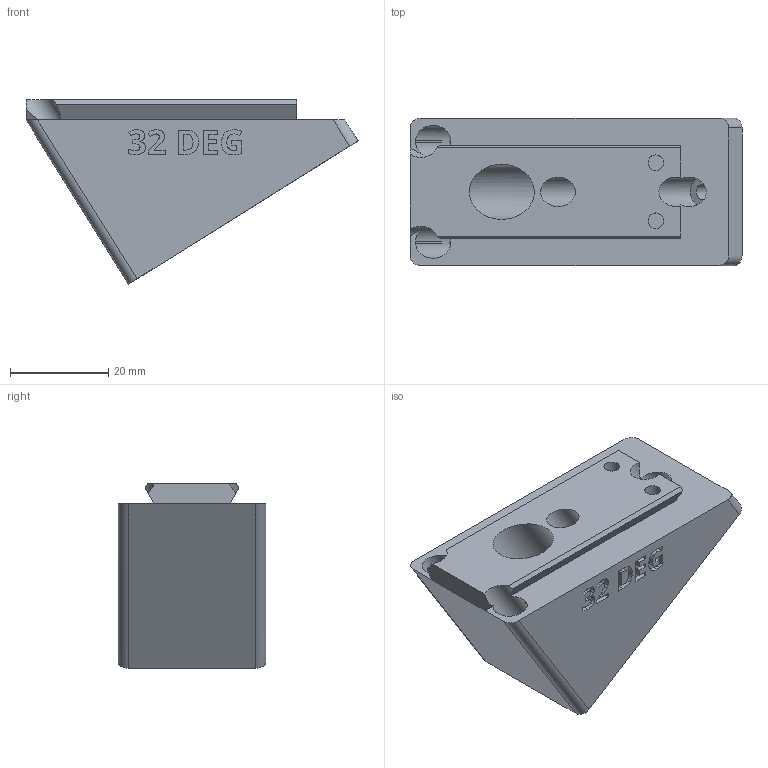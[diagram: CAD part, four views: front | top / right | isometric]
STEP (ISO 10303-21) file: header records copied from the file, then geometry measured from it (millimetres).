
FILE_DESCRIPTION(/* description */ ('STEP AP242 Edition 2','CAx-IF Rec.Pracs.---Representation and Presentation of Product Manufacturing Information (PMI)---4.0---2014-10-13','CAx-IF Rec.Pracs.---3D Tessellated Geometry---0.4---2014-09-14','2;1','CAx-IF Rec.Pracs.---User Defined Attributes---1.5---2016-08-15'),/* implementation_level */ '2;1');
FILE_NAME(/* name */ 'Camera Wedges - CAMERA MOUNTING WEDGE, POS, 32 DEG',/* time_stamp */ '2026-07-08T20:39:38Z',/* author */ (''),/* organization */ (''),/* preprocessor_version */ 'ST-DEVELOPER v20',/* originating_system */ 'ONSHAPE BY PTC INC, 1.217',/* authorisation */ ' ');
FILE_SCHEMA (('AP242_MANAGED_MODEL_BASED_3D_ENGINEERING_MIM_LF { 1 0 10303 442 3 1 4 }'));
Length unit declared in the file: metre
Products named in the file (1): CAMERA MOUNTING WEDGE, POS, 32 DEG
Bounding box: 67.5 x 30 x 37.49 mm (x, y, z)
Volume: 33411.5 mm3; surface area: 11425.7 mm2
Topology: 1 solids, 1 shells, 276 faces, 771 edges, 514 vertices
Faces by surface type: plane 138, bspline 80, cylinder 58
Full cylindrical faces by diameter (mm): 3.2 x4, 6 x2, 6.4 x1, 11.2 x1
Entity records: 9101 total; most frequent: CARTESIAN_POINT 2428, ORIENTED_EDGE 1520, DIRECTION 1125, EDGE_CURVE 760, VERTEX_POINT 511, LINE 469, VECTOR 469, AXIS2_PLACEMENT_3D 328
